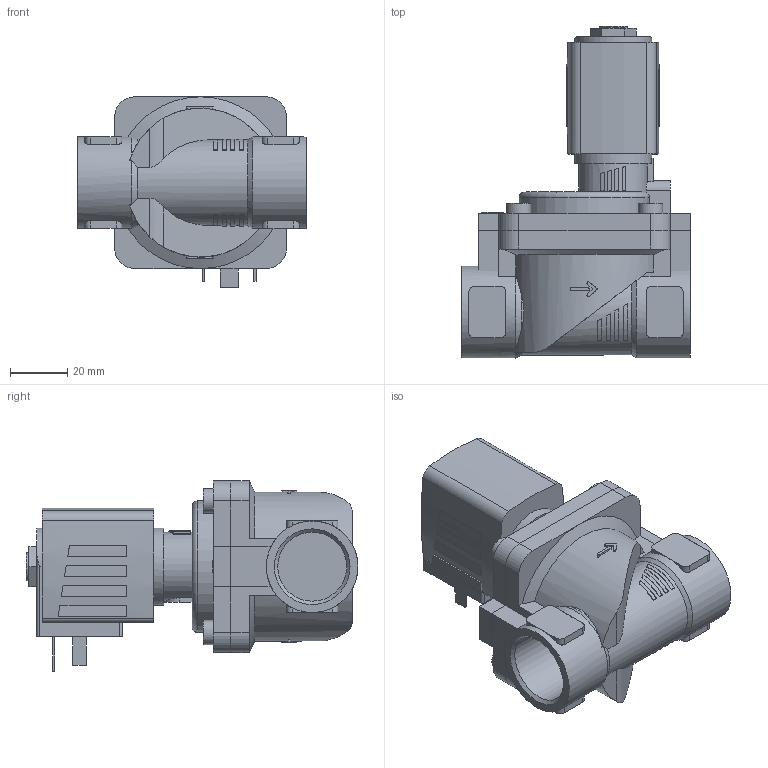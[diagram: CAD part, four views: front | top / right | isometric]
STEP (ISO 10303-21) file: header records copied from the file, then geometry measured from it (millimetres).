
FILE_DESCRIPTION(/* description */ ('STEP AP214'),/* implementation_level */ '2;1');
FILE_NAME(/* name */ '6281-238470-2_2-Way_Solenoid_Valve__Servo-assisted__General_Purpose',/* time_stamp */ '2024-05-27T10:28:57+02:00',/* author */ ('License CC BY-ND 4.0'),/* organization */ ('CADENAS'),/* preprocessor_version */ 'ST-DEVELOPER v19.3',/* originating_system */ 'PARTsolutions',/* authorisation */ ' ');
FILE_SCHEMA (('AUTOMOTIVE_DESIGN {1 0 10303 214 3 1 1}'));
Length unit declared in the file: millimetre
Products named in the file (4): 6281-238470-2/2-Way Solenoid Valve, Servo-assisted, General Purpose; 5281ev200VA2/2-Wege-Magnetventil mit Servomembran-Deckel   ; 6213-20G3/4MS-Gehaeuse-; AC10ex-5NA38-Plan-Coil
Assembly tree (3 placements, depth 2):
  6281-238470-2/2-Way Solenoid Valve, Servo-assisted, General Purpose
    5281ev200VA2/2-Wege-Magnetventil mit Servomembran-Deckel   
    6213-20G3/4MS-Gehaeuse-
    AC10ex-5NA38-Plan-Coil
Bounding box: 80 x 116 x 66.5 mm (x, y, z)
Volume: 197127.2 mm3; surface area: 42239.7 mm2
Topology: 3 solids, 3 shells, 336 faces, 845 edges, 558 vertices
Faces by surface type: plane 233, cylinder 87, cone 15, torus 1
Full cylindrical faces by diameter (mm): 2.013 x1, 8.5 x4, 9.74 x1, 24.117 x2, 27 x1, 32 x1
Entity records: 11365 total; most frequent: CARTESIAN_POINT 1983, DIRECTION 1690, ORIENTED_EDGE 1650, EDGE_CURVE 825, AXIS2_PLACEMENT_3D 594, VERTEX_POINT 551, LINE 502, VECTOR 502
